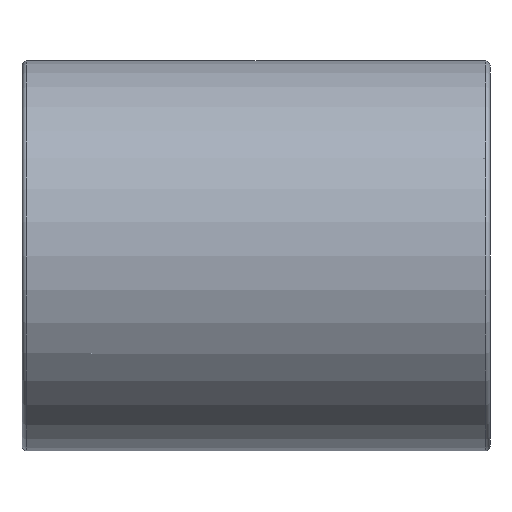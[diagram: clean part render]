
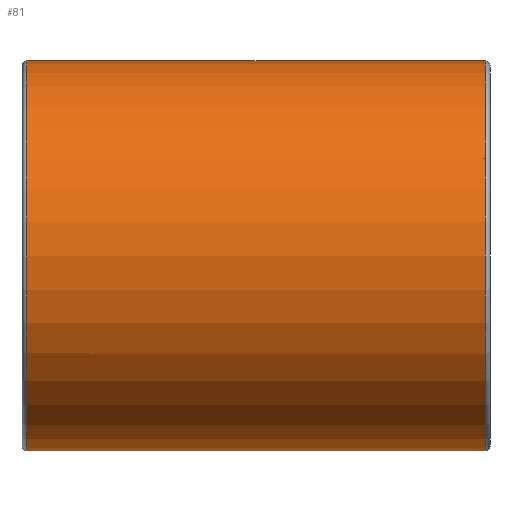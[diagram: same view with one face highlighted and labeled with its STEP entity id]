
A CAD part, left-side view. The second image highlights one B-rep face of the part: STEP entity #81.
In plain terms, the highlighted cylindrical face has radius 5 mm (diameter 10 mm), a full revolution.
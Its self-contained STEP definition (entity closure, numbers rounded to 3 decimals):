
#72=CYLINDRICAL_SURFACE('',#123,5.);
#73=FACE_BOUND('',#90,.T.);
#74=FACE_BOUND('',#91,.T.);
#81=ADVANCED_FACE('',(#73,#74),#72,.T.);
#90=EDGE_LOOP('',(#98));
#91=EDGE_LOOP('',(#99));
#98=ORIENTED_EDGE('',*,*,#110,.T.);
#99=ORIENTED_EDGE('',*,*,#111,.T.);
#106=VERTEX_POINT('',#154);
#107=VERTEX_POINT('',#156);
#110=EDGE_CURVE('',#106,#106,#114,.T.);
#111=EDGE_CURVE('',#107,#107,#115,.T.);
#114=CIRCLE('',#121,5.);
#115=CIRCLE('',#122,5.);
#121=AXIS2_PLACEMENT_3D('',#153,#136,#137);
#122=AXIS2_PLACEMENT_3D('',#155,#138,#139);
#123=AXIS2_PLACEMENT_3D('',#157,#140,#141);
#136=DIRECTION('',(0.,1.,0.));
#137=DIRECTION('',(-1.,0.,0.));
#138=DIRECTION('',(0.,-1.,0.));
#139=DIRECTION('',(1.,0.,0.));
#140=DIRECTION('',(0.,-1.,0.));
#141=DIRECTION('',(-1.,0.,0.));
#153=CARTESIAN_POINT('',(81.556,-9.475,8.575));
#154=CARTESIAN_POINT('',(76.556,-9.475,8.575));
#155=CARTESIAN_POINT('',(81.556,2.275,8.575));
#156=CARTESIAN_POINT('',(86.556,2.275,8.575));
#157=CARTESIAN_POINT('',(81.556,2.4,8.575));
